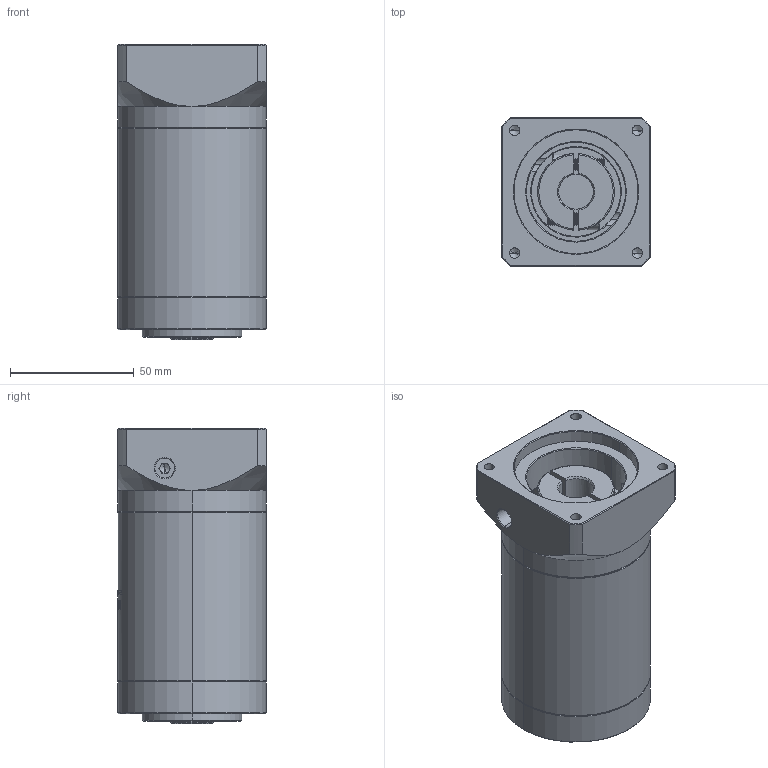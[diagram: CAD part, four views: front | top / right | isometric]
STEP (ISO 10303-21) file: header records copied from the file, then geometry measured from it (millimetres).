
FILE_DESCRIPTION (( 'STEP AP214' ), '1' );
FILE_NAME ('ZE60-K10-L3-14-50-70-M5.STEP', '2022-04-17T15:29:20', ( '' ), ( 'Microsoft' ), 'SwSTEP 2.0', 'SolidWorks 2016', '' );
FILE_SCHEMA (( 'AUTOMOTIVE_DESIGN' ));
Length unit declared in the file: millimetre
Products named in the file (1): ZE60-K10-L3-14-50-70-M5
Bounding box: 60 x 60 x 119 mm (x, y, z)
Volume: 304920.9 mm3; surface area: 47953.4 mm2
Topology: 6 solids, 6 shells, 1533 faces, 4162 edges, 2700 vertices
Faces by surface type: plane 717, cylinder 292, bspline 292, cone 214, torus 18
Entity records: 84223 total; most frequent: CARTESIAN_POINT 32126, ORIENTED_EDGE 8284, DIRECTION 6094, EDGE_CURVE 4142, VERTEX_POINT 2700, LINE 2146, VECTOR 2146, AXIS2_PLACEMENT_3D 1974
